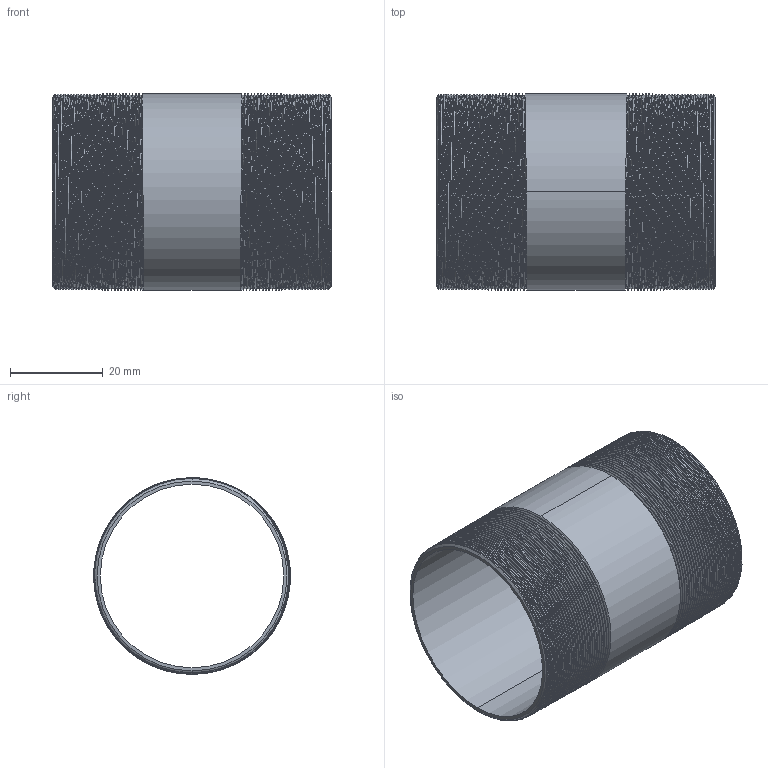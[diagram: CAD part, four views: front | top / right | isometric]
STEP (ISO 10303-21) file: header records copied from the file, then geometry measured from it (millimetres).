
FILE_DESCRIPTION (( 'STEP AP203' ), '1' );
FILE_NAME ('3D_R210_1 1-4x60_17148565.STEP', '2024-08-16T10:02:02', ( '' ), ( '' ), 'SwSTEP 2.0', 'SolidWorks 2024', '' );
FILE_SCHEMA (( 'CONFIG_CONTROL_DESIGN' ));
Length unit declared in the file: millimetre
Products named in the file (1): 3D_R210_1 1-4x60_17148565
Bounding box: 60 x 42.35 x 42.4 mm (x, y, z)
Volume: 9735.2 mm3; surface area: 18032.3 mm2
Topology: 1 solids, 1 shells, 128 faces, 370 edges, 244 vertices
Faces by surface type: cone 114, bspline 6, cylinder 4, plane 4
Entity records: 21255 total; most frequent: CARTESIAN_POINT 18295, ORIENTED_EDGE 740, DIRECTION 394, EDGE_CURVE 370, VERTEX_POINT 244, B_SPLINE_CURVE_WITH_KNOTS 226, AXIS2_PLACEMENT_3D 135, EDGE_LOOP 130
